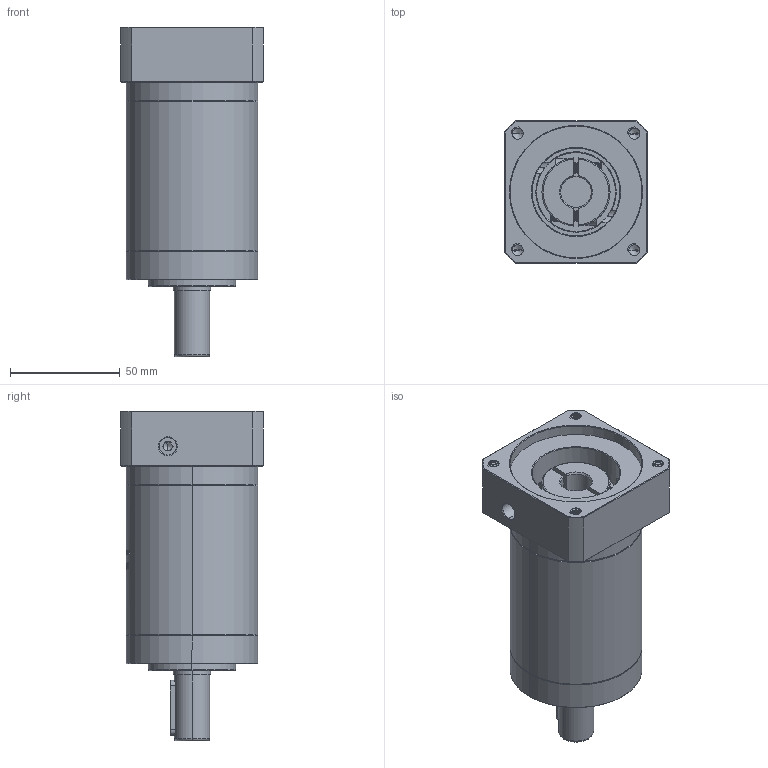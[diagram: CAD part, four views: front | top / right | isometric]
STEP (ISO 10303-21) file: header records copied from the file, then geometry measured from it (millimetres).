
FILE_DESCRIPTION (( 'STEP AP214' ), '1' );
FILE_NAME ('ZE60-D16-L3-14-60-75-M6.STEP', '2022-04-17T15:36:48', ( '' ), ( 'Microsoft' ), 'SwSTEP 2.0', 'SolidWorks 2016', '' );
FILE_SCHEMA (( 'AUTOMOTIVE_DESIGN' ));
Length unit declared in the file: millimetre
Products named in the file (1): ZE60-D16-L3-14-60-75-M6
Bounding box: 65 x 65 x 150 mm (x, y, z)
Volume: 325369 mm3; surface area: 52667.3 mm2
Topology: 6 solids, 6 shells, 1747 faces, 4742 edges, 3068 vertices
Faces by surface type: plane 737, cylinder 459, bspline 311, cone 222, torus 18
Entity records: 105496 total; most frequent: CARTESIAN_POINT 46771, ORIENTED_EDGE 9440, DIRECTION 6740, EDGE_CURVE 4720, VERTEX_POINT 3068, LINE 2360, VECTOR 2360, AXIS2_PLACEMENT_3D 2190
